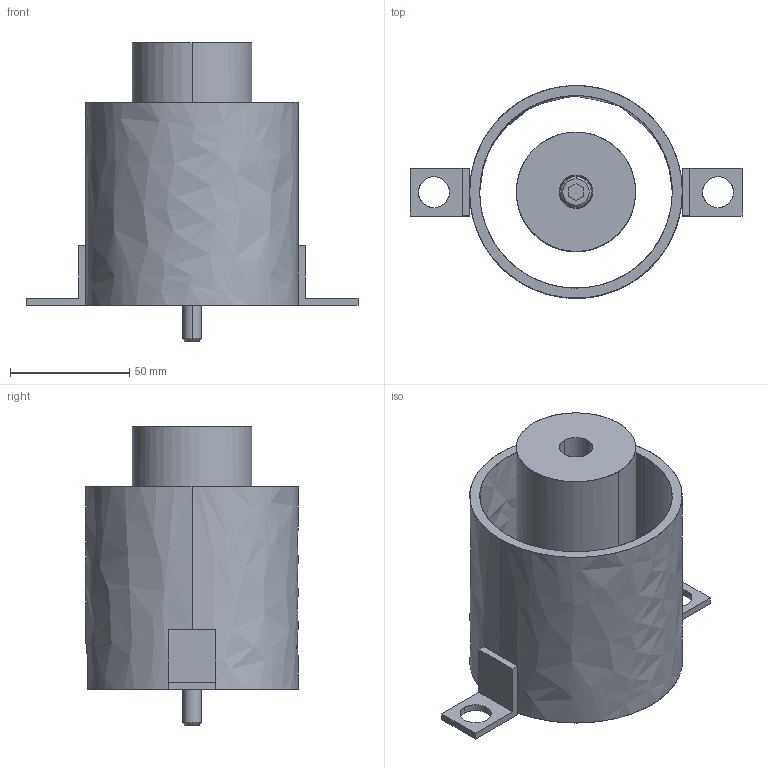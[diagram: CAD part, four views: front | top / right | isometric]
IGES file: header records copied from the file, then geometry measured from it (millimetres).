
Global section: file name: E:\UnigraphicsGraphicData\MISUMI_PRESS-PARTS\IGES\3d_phbt50-110-85-r_07066_r00.igs; native system: NX V5.0; preprocessor: UGS NX IGES V5.0; author: MISUMI; date: 20110105.162247; units: millimetre
Bounding box: 139.1 x 89.1 x 125 mm (x, y, z)
Surface area: 81506.4 mm2 (no closed solid volume)
Topology: 0 solids, 0 shells, 64 faces, 476 edges, 476 vertices
Faces by surface type: bspline 64
